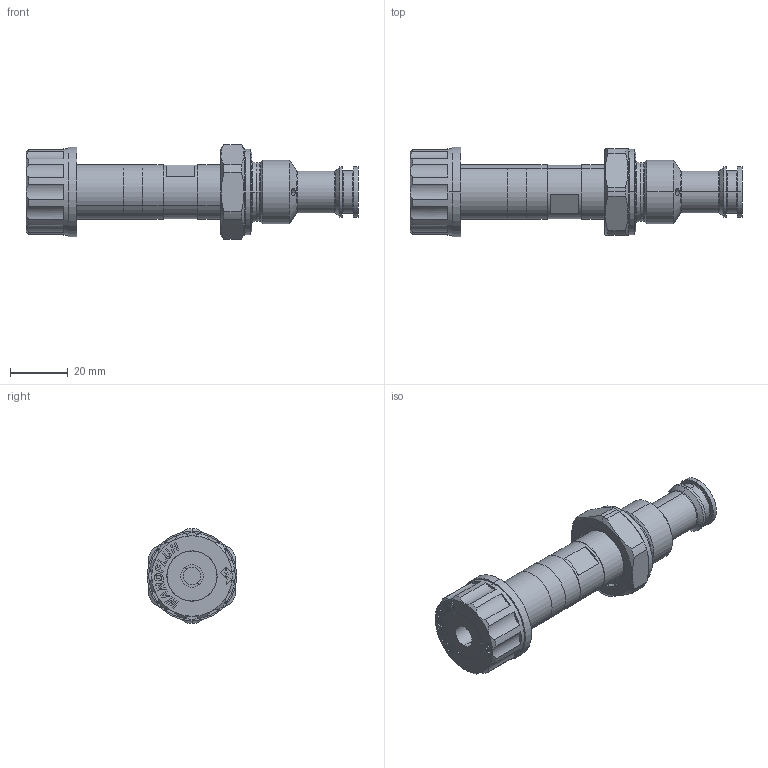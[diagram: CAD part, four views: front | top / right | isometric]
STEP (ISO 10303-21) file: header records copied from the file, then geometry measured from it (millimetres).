
FILE_DESCRIPTION (( 'STEP AP203' ), '1' );
FILE_NAME ('BDPPM22.step', '2014-01-23T07:16:59', ( 'Wandfluh AG' ), ( 'Wandfluh AG' ), 'SwSTEP 2.0', 'SolidWorks 2012', '' );
FILE_SCHEMA (( 'CONFIG_CONTROL_DESIGN' ));
Length unit declared in the file: millimetre
Products named in the file (1): BDPPM22
Bounding box: 115.4 x 31 x 33 mm (x, y, z)
Volume: 41644.8 mm3; surface area: 17353 mm2
Topology: 5 solids, 5 shells, 662 faces, 1661 edges, 1034 vertices
Faces by surface type: plane 461, cylinder 90, cone 65, torus 30, bspline 16
Entity records: 20750 total; most frequent: CARTESIAN_POINT 4812, ORIENTED_EDGE 3306, DIRECTION 3261, EDGE_CURVE 1653, VECTOR 1171, LINE 1171, AXIS2_PLACEMENT_3D 1045, VERTEX_POINT 1034
